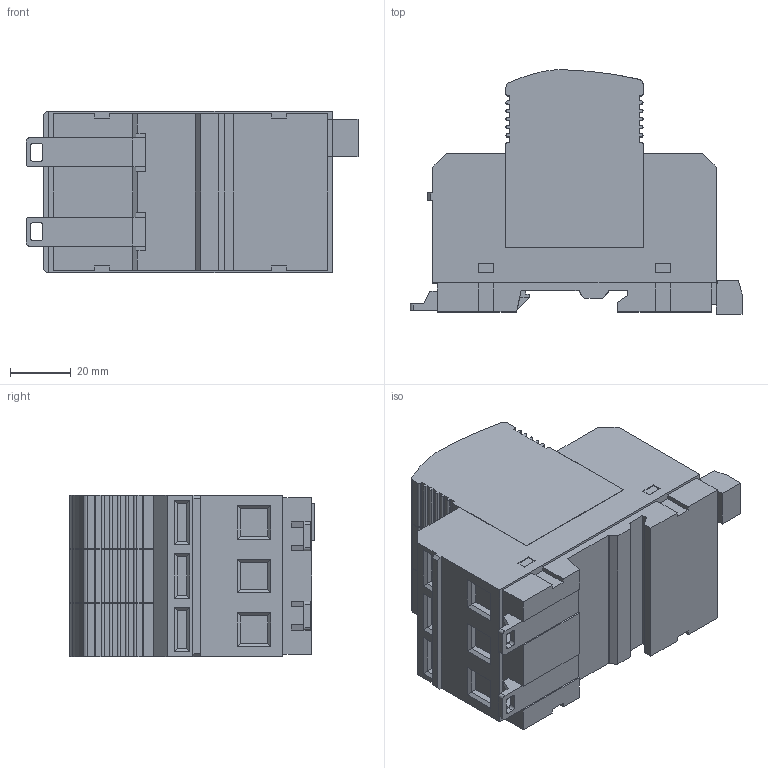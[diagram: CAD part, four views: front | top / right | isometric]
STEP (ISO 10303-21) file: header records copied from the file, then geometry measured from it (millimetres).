
FILE_DESCRIPTION(/* description */ (''),/* implementation_level */ '2;1');
FILE_NAME(/* name */ 'K:\PROJEKTY ROZPRACOVANÉ\MODELY DO KATALOGU\V-SERIE\3D - STEP\H PV M S.stp',/* time_stamp */ '2021-06-10T13:39:09+02:00',/* author */ ('miko'),/* organization */ (''),/* preprocessor_version */ 'ST-DEVELOPER v18.1',/* originating_system */ 'Autodesk Inventor 2022',/* authorisation */ '');
FILE_SCHEMA (('AUTOMOTIVE_DESIGN { 1 0 10303 214 3 1 1 }'));
Length unit declared in the file: millimetre
Products named in the file (5): H PV M S; H PV M S_1; KONEKTOR DEGSON 15EDGRC 3.81 (OBRÁCENÉ VÝV
ODY); DIN 7985 (H) - M6x10-H; 15EDGK - 3.81 3P (RAL 2012)
Assembly tree (7 placements, depth 2):
  H PV M S
    H PV M S_1
    DIN 7985 (H) - M6x10-H  x4
    KONEKTOR DEGSON 15EDGRC 3.81 (OBRÁCENÉ VÝV
ODY)
    15EDGK - 3.81 3P (RAL 2012)
Bounding box: 109 x 80.25 x 53 mm (x, y, z)
Volume: 300903.9 mm3; surface area: 55536.1 mm2
Topology: 7 solids, 10 shells, 806 faces, 2115 edges, 1382 vertices
Faces by surface type: plane 616, cylinder 109, cone 67, torus 10, sphere 4
Full cylindrical faces by diameter (mm): 0.968 x3, 1 x6, 1.9 x3, 2 x3, 2.5 x3, 5.5 x4, 6 x4, 7.5 x4
Entity records: 21412 total; most frequent: CARTESIAN_POINT 3730, ORIENTED_EDGE 3606, DIRECTION 3482, EDGE_CURVE 1803, LINE 1492, VECTOR 1492, VERTEX_POINT 1175, AXIS2_PLACEMENT_3D 995
